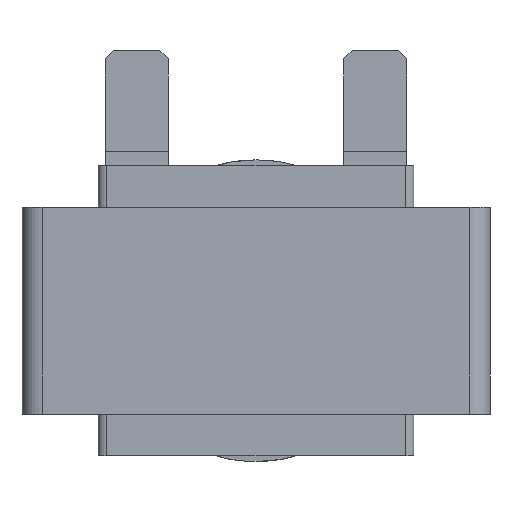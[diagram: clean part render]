
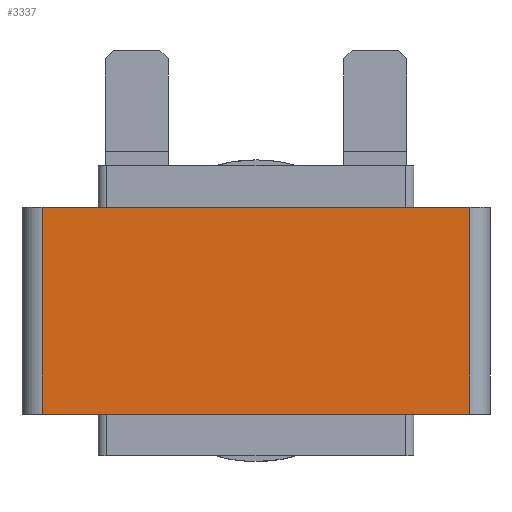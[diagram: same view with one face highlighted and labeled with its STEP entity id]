
A CAD part, front view. The second image highlights one B-rep face of the part: STEP entity #3337.
In plain terms, the highlighted planar face has unit normal (0, -1, 0).
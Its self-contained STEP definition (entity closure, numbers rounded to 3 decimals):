
#44 = VERTEX_POINT ( 'NONE', #4963 ) ;
#400 = CARTESIAN_POINT ( 'NONE',  ( -25.43, -10.381, 12.3 ) ) ;
#448 = LINE ( 'NONE', #4534, #19976 ) ;
#820 = VERTEX_POINT ( 'NONE', #2786 ) ;
#1183 = AXIS2_PLACEMENT_3D ( 'NONE', #400, #17921, #14741 ) ;
#1234 = EDGE_LOOP ( 'NONE', ( #19380, #4156, #14966, #6921 ) ) ;
#2786 = CARTESIAN_POINT ( 'NONE',  ( 25.43, -10.381, 12.3 ) ) ;
#2902 = VERTEX_POINT ( 'NONE', #3117 ) ;
#3117 = CARTESIAN_POINT ( 'NONE',  ( 25.43, -10.381, -12.3 ) ) ;
#3337 = ADVANCED_FACE ( 'NONE', ( #18327 ), #19596, .F. ) ;
#3915 = VECTOR ( 'NONE', #7931, 1000. ) ;
#3937 = LINE ( 'NONE', #9270, #10884 ) ;
#4156 = ORIENTED_EDGE ( 'NONE', *, *, #20350, .F. ) ;
#4338 = EDGE_CURVE ( 'NONE', #44, #2902, #16799, .T. ) ;
#4534 = CARTESIAN_POINT ( 'NONE',  ( 25.43, -10.381, 12.3 ) ) ;
#4963 = CARTESIAN_POINT ( 'NONE',  ( -25.43, -10.381, -12.3 ) ) ;
#5988 = DIRECTION ( 'NONE',  ( 0., 0., -1. ) ) ;
#6039 = VERTEX_POINT ( 'NONE', #13189 ) ;
#6921 = ORIENTED_EDGE ( 'NONE', *, *, #9420, .T. ) ;
#7304 = LINE ( 'NONE', #9947, #18455 ) ;
#7524 = DIRECTION ( 'NONE',  ( 1., 0., 0. ) ) ;
#7931 = DIRECTION ( 'NONE',  ( 1., 0., 0. ) ) ;
#9270 = CARTESIAN_POINT ( 'NONE',  ( -25.43, -10.381, 12.3 ) ) ;
#9420 = EDGE_CURVE ( 'NONE', #6039, #44, #7304, .T. ) ;
#9947 = CARTESIAN_POINT ( 'NONE',  ( -25.43, -10.381, 12.3 ) ) ;
#10884 = VECTOR ( 'NONE', #7524, 1000. ) ;
#13189 = CARTESIAN_POINT ( 'NONE',  ( -25.43, -10.381, 12.3 ) ) ;
#14728 = DIRECTION ( 'NONE',  ( 0., 0., -1. ) ) ;
#14741 = DIRECTION ( 'NONE',  ( 0., 0., 1. ) ) ;
#14966 = ORIENTED_EDGE ( 'NONE', *, *, #18654, .F. ) ;
#16799 = LINE ( 'NONE', #17262, #3915 ) ;
#17262 = CARTESIAN_POINT ( 'NONE',  ( -25.43, -10.381, -12.3 ) ) ;
#17921 = DIRECTION ( 'NONE',  ( 0., 1., 0. ) ) ;
#18327 = FACE_OUTER_BOUND ( 'NONE', #1234, .T. ) ;
#18455 = VECTOR ( 'NONE', #14728, 1000. ) ;
#18654 = EDGE_CURVE ( 'NONE', #6039, #820, #3937, .T. ) ;
#19380 = ORIENTED_EDGE ( 'NONE', *, *, #4338, .T. ) ;
#19596 = PLANE ( 'NONE',  #1183 ) ;
#19976 = VECTOR ( 'NONE', #5988, 1000. ) ;
#20350 = EDGE_CURVE ( 'NONE', #820, #2902, #448, .T. ) ;
